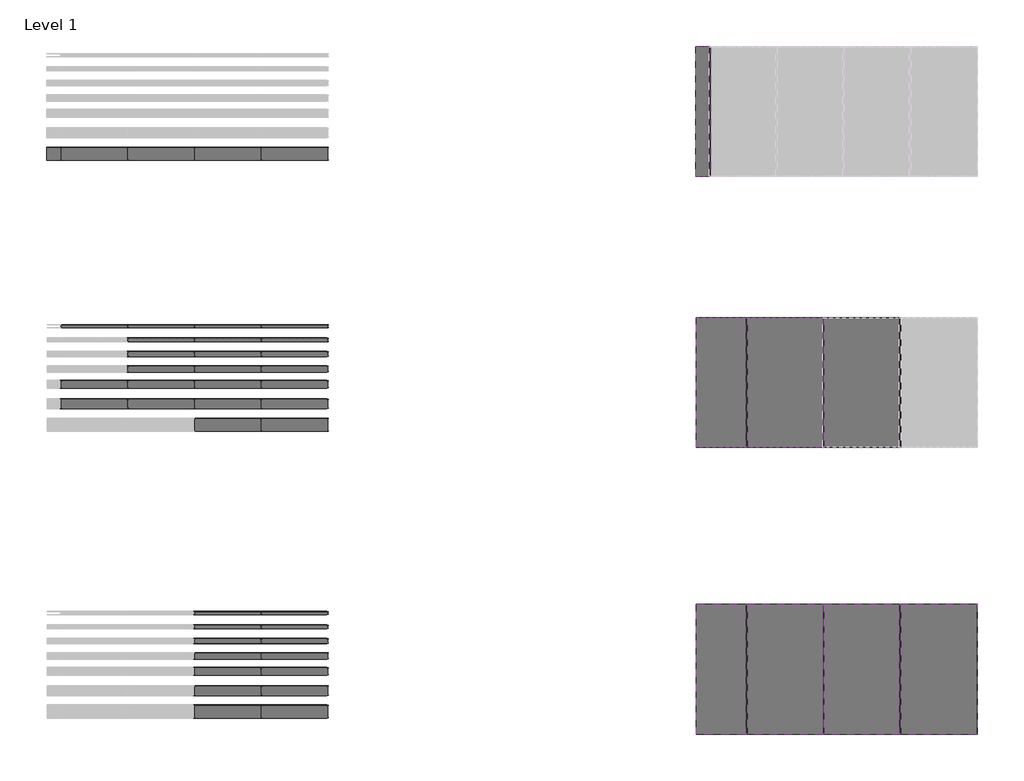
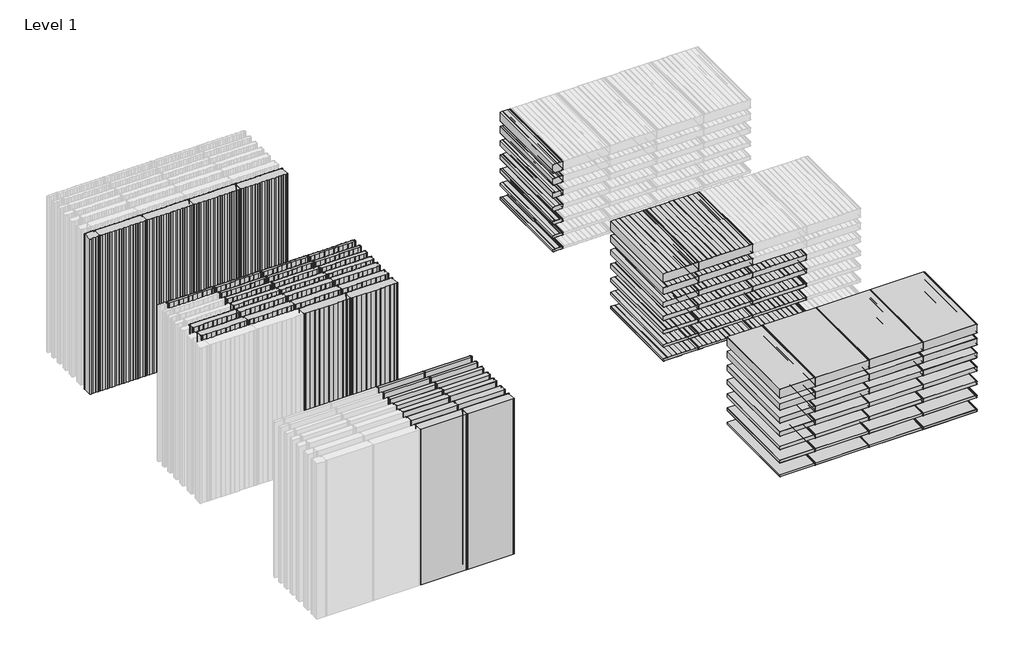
# One storey, part 3 of 4: 96 plates.
"""IFC4 building model written with IfcOpenShell, lengths in millimetres."""

from ifc_helpers import new_model, si_unit, origin, place, context, project, spatial, transform, mapped, element, save
from components import pm1_curtain_panel_flat_profile_4c73c2bf, pm1_curtain_panel_flat_profile_43c2f4df, pm1_curtain_panel_flat_profile_60ec96a5, pm1_curtain_panel_flat_profile_449bc577, pm1_curtain_panel_flat_profile_286b1131, pm1_curtain_panel_flat_profile_61f180d3, pm1_curtain_panel_flat_profile_b2dca893, pm1_curtain_panel_flat_profile_1d2014c8, pm1_curtain_panel_flat_profile_ca693aed, pm1_curtain_panel_flat_profile_87bdf2c1, pm1_curtain_panel_flat_profile_b736cf1f, pm1_curtain_panel_flat_profile_28417d67, pm1_curtain_panel_flat_profile_6e2cb82f, pm1_curtain_panel_flat_profile_e4c4468b, pm1_curtain_panel_micro_ribbed_profile_c0fbc9e0, pm1_curtain_panel_micro_ribbed_profile_24b0a13b, pm1_curtain_panel_micro_ribbed_profile_d84f3b6b, pm1_curtain_panel_micro_ribbed_profile_1f1996e2, pm1_curtain_panel_micro_ribbed_profile_37213962, pm1_curtain_panel_micro_ribbed_profile_cd397411, pm1_curtain_panel_micro_ribbed_profile_82cb0394, pm1_curtain_panel_micro_ribbed_profile_46b46948, pm1_curtain_panel_micro_ribbed_profile_8fb5820e, pm1_curtain_panel_micro_ribbed_profile_215b7ad8, pm1_curtain_panel_micro_ribbed_profile_cca0c929, pm1_curtain_panel_micro_ribbed_profile_ab274a87, pm1_curtain_panel_micro_ribbed_profile_490ffd24, pm1_curtain_panel_micro_ribbed_profile_86621088, pm1_curtain_panel_micro_ribbed_profile_fcd02327, pm1_curtain_panel_micro_ribbed_profile_9c3616a6, pm1_curtain_panel_micro_ribbed_profile_b6f5b8fb, pm1_curtain_panel_micro_ribbed_profile_d67f2b87, pm1_curtain_panel_micro_ribbed_profile_3ec6e447, pm1_curtain_panel_micro_ribbed_profile_b6d19df9, pm1_curtain_panel_micro_ribbed_profile_b77677c2, pmh_curtain_panel_standard_02edb116, pmh_curtain_panel_standard_71c8e410, pmh_curtain_panel_standard_208f2f02, pmh_curtain_panel_standard_dd2a4387, pmh_curtain_panel_standard_1fcd82a8, pmh_curtain_panel_standard_863052c6, pmh_curtain_panel_standard_c1a73980, pmh_curtain_panel_standard_c8ef7cc6, pmh_curtain_panel_standard_5d0e5f40, pmh_curtain_panel_flat_profile_2aa518ef, pmh_curtain_panel_flat_profile_bc538edd, pmh_curtain_panel_flat_profile_eaf717ca, pmh_curtain_panel_flat_profile_a8378464, pmh_curtain_panel_flat_profile_d1ff0061, pmh_curtain_panel_flat_profile_b9f61fe7, pmh_curtain_panel_flat_profile_7e397283, pmh_curtain_panel_micro_ribbed_profile_37a7e260, pmh_curtain_panel_micro_ribbed_profile_d39909f0, pmh_curtain_panel_micro_ribbed_profile_9a600a1f, pmh_curtain_panel_micro_ribbed_profile_23aabe01, pmh_curtain_panel_micro_ribbed_profile_1fa75648, pmh_curtain_panel_micro_ribbed_profile_c51ca6de, pmh_curtain_panel_micro_ribbed_profile_85a3d73c

model = new_model("IFC4")

# Units and contexts
model_context = context("Model", 3, world=origin())
ifc_project = project(units=[si_unit("LENGTHUNIT", "METRE", prefix="MILLI")], contexts=[model_context])

# Site, building, storey
site = spatial("IfcSite", under=ifc_project)
building = spatial("IfcBuilding", under=site)
storey = spatial("IfcBuildingStorey", under=building, Name="Level 1", Elevation=0.0)

# Plates
placement = place(None, origin())
pm1_curtain_panel_flat_profile_shape = pm1_curtain_panel_flat_profile_4c73c2bf(model_context)
element("IfcPlate", 1, ObjectType="PM1_Curtain-Panel_Flat-profile : ACH_PM1_Acoustic-Sectioning-Panel_50M", at=placement, inside=storey, context=model_context, shape_type="MappedRepresentation", body=[
    mapped(pm1_curtain_panel_flat_profile_shape, transform((11007.4664378, -9019.7144508, 0.0), x_axis=(-1.0, 0.0, 0.0), y_axis=(0.0, 0.0, 1.0), z_axis=(0.0, 1.0, 0.0))),
])
element("IfcPlate", 2, ObjectType="PM1_Curtain-Panel_Flat-profile : ACH_PM1_Acoustic-Sectioning-Panel_50M", at=placement, inside=storey, context=model_context, shape_type="MappedRepresentation", body=[
    mapped(pm1_curtain_panel_flat_profile_shape, transform((9857.4664378, -9019.7144508, 0.0), x_axis=(-1.0, 0.0, 0.0), y_axis=(0.0, 0.0, 1.0), z_axis=(0.0, 1.0, 0.0))),
])
element("IfcPlate", 3, ObjectType="PM1_Curtain-Panel_Flat-profile : ACH_PM1_Acoustic-Sectioning-Panel_50M", at=placement, inside=storey, context=model_context, shape_type="MappedRepresentation", body=[
    mapped(pm1_curtain_panel_flat_profile_shape, transform((8707.4664378, -9019.7144508, 0.0), x_axis=(-1.0, 0.0, 0.0), y_axis=(0.0, 0.0, 1.0), z_axis=(0.0, 1.0, 0.0))),
])
pm1_curtain_panel_flat_profile_2_shape = pm1_curtain_panel_flat_profile_43c2f4df(model_context)
element("IfcPlate", 4, ObjectType="PM1_Curtain-Panel_Flat-profile : ACH_PM1_Acoustic-Sectioning-Panel_50M", at=placement, inside=storey, context=model_context, shape_type="MappedRepresentation", body=[
    mapped(pm1_curtain_panel_flat_profile_2_shape, transform((7757.4544639, -9019.7144508, 0.0), x_axis=(-1.0, 0.0, 0.0), y_axis=(0.0, 0.0, 1.0), z_axis=(0.0, 1.0, 0.0))),
])
pm1_curtain_panel_flat_profile_3_shape = pm1_curtain_panel_flat_profile_60ec96a5(model_context)
element("IfcPlate", 5, ObjectType="PM1_Curtain-Panel_Flat-profile : ACH_PM1_Acoustic-Sectioning-Panel_60M", at=placement, inside=storey, context=model_context, shape_type="MappedRepresentation", body=[
    mapped(pm1_curtain_panel_flat_profile_3_shape, transform((11007.4664378, -9019.7144508, 320.0), x_axis=(-1.0, 0.0, 0.0), y_axis=(0.0, 0.0, 1.0), z_axis=(0.0, 1.0, 0.0))),
])
element("IfcPlate", 6, ObjectType="PM1_Curtain-Panel_Flat-profile : ACH_PM1_Acoustic-Sectioning-Panel_60M", at=placement, inside=storey, context=model_context, shape_type="MappedRepresentation", body=[
    mapped(pm1_curtain_panel_flat_profile_3_shape, transform((9857.4664378, -9019.7144508, 320.0), x_axis=(-1.0, 0.0, 0.0), y_axis=(0.0, 0.0, 1.0), z_axis=(0.0, 1.0, 0.0))),
])
element("IfcPlate", 7, ObjectType="PM1_Curtain-Panel_Flat-profile : ACH_PM1_Acoustic-Sectioning-Panel_60M", at=placement, inside=storey, context=model_context, shape_type="MappedRepresentation", body=[
    mapped(pm1_curtain_panel_flat_profile_3_shape, transform((8707.4664378, -9019.7144508, 320.0), x_axis=(-1.0, 0.0, 0.0), y_axis=(0.0, 0.0, 1.0), z_axis=(0.0, 1.0, 0.0))),
])
pm1_curtain_panel_flat_profile_4_shape = pm1_curtain_panel_flat_profile_449bc577(model_context)
element("IfcPlate", 8, ObjectType="PM1_Curtain-Panel_Flat-profile : ACH_PM1_Acoustic-Sectioning-Panel_60M", at=placement, inside=storey, context=model_context, shape_type="MappedRepresentation", body=[
    mapped(pm1_curtain_panel_flat_profile_4_shape, transform((7757.4544639, -9019.7144508, 320.0), x_axis=(-1.0, 0.0, 0.0), y_axis=(0.0, 0.0, 1.0), z_axis=(0.0, 1.0, 0.0))),
])
pm1_curtain_panel_flat_profile_5_shape = pm1_curtain_panel_flat_profile_286b1131(model_context)
element("IfcPlate", 9, ObjectType="PM1_Curtain-Panel_Flat-profile : ACH_PM1_Acoustic-Sectioning-Panel_80M", at=placement, inside=storey, context=model_context, shape_type="MappedRepresentation", body=[
    mapped(pm1_curtain_panel_flat_profile_5_shape, transform((11007.4664378, -9019.7144508, 640.0), x_axis=(-1.0, 0.0, 0.0), y_axis=(0.0, 0.0, 1.0), z_axis=(0.0, 1.0, 0.0))),
])
element("IfcPlate", 10, ObjectType="PM1_Curtain-Panel_Flat-profile : ACH_PM1_Acoustic-Sectioning-Panel_80M", at=placement, inside=storey, context=model_context, shape_type="MappedRepresentation", body=[
    mapped(pm1_curtain_panel_flat_profile_5_shape, transform((9857.4664378, -9019.7144508, 640.0), x_axis=(-1.0, 0.0, 0.0), y_axis=(0.0, 0.0, 1.0), z_axis=(0.0, 1.0, 0.0))),
])
element("IfcPlate", 11, ObjectType="PM1_Curtain-Panel_Flat-profile : ACH_PM1_Acoustic-Sectioning-Panel_80M", at=placement, inside=storey, context=model_context, shape_type="MappedRepresentation", body=[
    mapped(pm1_curtain_panel_flat_profile_5_shape, transform((8707.4664378, -9019.7144508, 640.0), x_axis=(-1.0, 0.0, 0.0), y_axis=(0.0, 0.0, 1.0), z_axis=(0.0, 1.0, 0.0))),
])
pm1_curtain_panel_flat_profile_6_shape = pm1_curtain_panel_flat_profile_61f180d3(model_context)
element("IfcPlate", 12, ObjectType="PM1_Curtain-Panel_Flat-profile : ACH_PM1_Acoustic-Sectioning-Panel_80M", at=placement, inside=storey, context=model_context, shape_type="MappedRepresentation", body=[
    mapped(pm1_curtain_panel_flat_profile_6_shape, transform((7757.4544639, -9019.7144508, 640.0), x_axis=(-1.0, 0.0, 0.0), y_axis=(0.0, 0.0, 1.0), z_axis=(0.0, 1.0, 0.0))),
])
pm1_curtain_panel_flat_profile_7_shape = pm1_curtain_panel_flat_profile_b2dca893(model_context)
element("IfcPlate", 13, ObjectType="PM1_Curtain-Panel_Flat-profile : ACH_PM1_Acoustic-Sectioning-Panel_100M", at=placement, inside=storey, context=model_context, shape_type="MappedRepresentation", body=[
    mapped(pm1_curtain_panel_flat_profile_7_shape, transform((11007.4664378, -9019.7144508, 960.0), x_axis=(-1.0, 0.0, 0.0), y_axis=(0.0, 0.0, 1.0), z_axis=(0.0, 1.0, 0.0))),
])
element("IfcPlate", 14, ObjectType="PM1_Curtain-Panel_Flat-profile : ACH_PM1_Acoustic-Sectioning-Panel_100M", at=placement, inside=storey, context=model_context, shape_type="MappedRepresentation", body=[
    mapped(pm1_curtain_panel_flat_profile_7_shape, transform((9857.4664378, -9019.7144508, 960.0), x_axis=(-1.0, 0.0, 0.0), y_axis=(0.0, 0.0, 1.0), z_axis=(0.0, 1.0, 0.0))),
])
element("IfcPlate", 15, ObjectType="PM1_Curtain-Panel_Flat-profile : ACH_PM1_Acoustic-Sectioning-Panel_100M", at=placement, inside=storey, context=model_context, shape_type="MappedRepresentation", body=[
    mapped(pm1_curtain_panel_flat_profile_7_shape, transform((8707.4664378, -9019.7144508, 960.0), x_axis=(-1.0, 0.0, 0.0), y_axis=(0.0, 0.0, 1.0), z_axis=(0.0, 1.0, 0.0))),
])
pm1_curtain_panel_flat_profile_8_shape = pm1_curtain_panel_flat_profile_1d2014c8(model_context)
element("IfcPlate", 16, ObjectType="PM1_Curtain-Panel_Flat-profile : ACH_PM1_Acoustic-Sectioning-Panel_100M", at=placement, inside=storey, context=model_context, shape_type="MappedRepresentation", body=[
    mapped(pm1_curtain_panel_flat_profile_8_shape, transform((7757.4544639, -9019.7144508, 960.0), x_axis=(-1.0, 0.0, 0.0), y_axis=(0.0, 0.0, 1.0), z_axis=(0.0, 1.0, 0.0))),
])
pm1_curtain_panel_flat_profile_9_shape = pm1_curtain_panel_flat_profile_ca693aed(model_context)
element("IfcPlate", 17, ObjectType="PM1_Curtain-Panel_Flat-profile : ACH_PM1_Acoustic-Sectioning-Panel_120M", at=placement, inside=storey, context=model_context, shape_type="MappedRepresentation", body=[
    mapped(pm1_curtain_panel_flat_profile_9_shape, transform((11007.4664378, -9019.7144508, 1280.0), x_axis=(-1.0, 0.0, 0.0), y_axis=(0.0, 0.0, 1.0), z_axis=(0.0, 1.0, 0.0))),
])
element("IfcPlate", 18, ObjectType="PM1_Curtain-Panel_Flat-profile : ACH_PM1_Acoustic-Sectioning-Panel_120M", at=placement, inside=storey, context=model_context, shape_type="MappedRepresentation", body=[
    mapped(pm1_curtain_panel_flat_profile_9_shape, transform((9857.4664378, -9019.7144508, 1280.0), x_axis=(-1.0, 0.0, 0.0), y_axis=(0.0, 0.0, 1.0), z_axis=(0.0, 1.0, 0.0))),
])
element("IfcPlate", 19, ObjectType="PM1_Curtain-Panel_Flat-profile : ACH_PM1_Acoustic-Sectioning-Panel_120M", at=placement, inside=storey, context=model_context, shape_type="MappedRepresentation", body=[
    mapped(pm1_curtain_panel_flat_profile_9_shape, transform((8707.4664378, -9019.7144508, 1280.0), x_axis=(-1.0, 0.0, 0.0), y_axis=(0.0, 0.0, 1.0), z_axis=(0.0, 1.0, 0.0))),
])
pm1_curtain_panel_flat_profile_10_shape = pm1_curtain_panel_flat_profile_87bdf2c1(model_context)
element("IfcPlate", 20, ObjectType="PM1_Curtain-Panel_Flat-profile : ACH_PM1_Acoustic-Sectioning-Panel_120M", at=placement, inside=storey, context=model_context, shape_type="MappedRepresentation", body=[
    mapped(pm1_curtain_panel_flat_profile_10_shape, transform((7757.4544639, -9019.7144508, 1280.0), x_axis=(-1.0, 0.0, 0.0), y_axis=(0.0, 0.0, 1.0), z_axis=(0.0, 1.0, 0.0))),
])
pm1_curtain_panel_flat_profile_11_shape = pm1_curtain_panel_flat_profile_b736cf1f(model_context)
element("IfcPlate", 21, ObjectType="PM1_Curtain-Panel_Flat-profile : ACH_PM1_Acoustic-Sectioning-Panel_150M", at=placement, inside=storey, context=model_context, shape_type="MappedRepresentation", body=[
    mapped(pm1_curtain_panel_flat_profile_11_shape, transform((11007.4664378, -9019.7144508, 1600.0), x_axis=(-1.0, 0.0, 0.0), y_axis=(0.0, 0.0, 1.0), z_axis=(0.0, 1.0, 0.0))),
])
element("IfcPlate", 22, ObjectType="PM1_Curtain-Panel_Flat-profile : ACH_PM1_Acoustic-Sectioning-Panel_150M", at=placement, inside=storey, context=model_context, shape_type="MappedRepresentation", body=[
    mapped(pm1_curtain_panel_flat_profile_11_shape, transform((9857.4664378, -9019.7144508, 1600.0), x_axis=(-1.0, 0.0, 0.0), y_axis=(0.0, 0.0, 1.0), z_axis=(0.0, 1.0, 0.0))),
])
element("IfcPlate", 23, ObjectType="PM1_Curtain-Panel_Flat-profile : ACH_PM1_Acoustic-Sectioning-Panel_150M", at=placement, inside=storey, context=model_context, shape_type="MappedRepresentation", body=[
    mapped(pm1_curtain_panel_flat_profile_11_shape, transform((8707.4664378, -9019.7144508, 1600.0), x_axis=(-1.0, 0.0, 0.0), y_axis=(0.0, 0.0, 1.0), z_axis=(0.0, 1.0, 0.0))),
])
pm1_curtain_panel_flat_profile_12_shape = pm1_curtain_panel_flat_profile_28417d67(model_context)
element("IfcPlate", 24, ObjectType="PM1_Curtain-Panel_Flat-profile : ACH_PM1_Acoustic-Sectioning-Panel_150M", at=placement, inside=storey, context=model_context, shape_type="MappedRepresentation", body=[
    mapped(pm1_curtain_panel_flat_profile_12_shape, transform((7757.4544639, -9019.7144508, 1600.0), x_axis=(-1.0, 0.0, 0.0), y_axis=(0.0, 0.0, 1.0), z_axis=(0.0, 1.0, 0.0))),
])
pm1_curtain_panel_flat_profile_13_shape = pm1_curtain_panel_flat_profile_6e2cb82f(model_context)
element("IfcPlate", 25, ObjectType="PM1_Curtain-Panel_Flat-profile : ACH_PM1_Acoustic-Sectioning-Panel_200M", at=placement, inside=storey, context=model_context, shape_type="MappedRepresentation", body=[
    mapped(pm1_curtain_panel_flat_profile_13_shape, transform((11007.4664378, -9019.7144508, 1920.0), x_axis=(-1.0, 0.0, 0.0), y_axis=(0.0, 0.0, 1.0), z_axis=(0.0, 1.0, 0.0))),
])
element("IfcPlate", 26, ObjectType="PM1_Curtain-Panel_Flat-profile : ACH_PM1_Acoustic-Sectioning-Panel_200M", at=placement, inside=storey, context=model_context, shape_type="MappedRepresentation", body=[
    mapped(pm1_curtain_panel_flat_profile_13_shape, transform((9857.4664378, -9019.7144508, 1920.0), x_axis=(-1.0, 0.0, 0.0), y_axis=(0.0, 0.0, 1.0), z_axis=(0.0, 1.0, 0.0))),
])
element("IfcPlate", 27, ObjectType="PM1_Curtain-Panel_Flat-profile : ACH_PM1_Acoustic-Sectioning-Panel_200M", at=placement, inside=storey, context=model_context, shape_type="MappedRepresentation", body=[
    mapped(pm1_curtain_panel_flat_profile_13_shape, transform((8707.4664378, -9019.7144508, 1920.0), x_axis=(-1.0, 0.0, 0.0), y_axis=(0.0, 0.0, 1.0), z_axis=(0.0, 1.0, 0.0))),
])
pm1_curtain_panel_flat_profile_14_shape = pm1_curtain_panel_flat_profile_e4c4468b(model_context)
element("IfcPlate", 28, ObjectType="PM1_Curtain-Panel_Flat-profile : ACH_PM1_Acoustic-Sectioning-Panel_200M", at=placement, inside=storey, context=model_context, shape_type="MappedRepresentation", body=[
    mapped(pm1_curtain_panel_flat_profile_14_shape, transform((7757.4544639, -9019.7144508, 1920.0), x_axis=(-1.0, 0.0, 0.0), y_axis=(0.0, 0.0, 1.0), z_axis=(0.0, 1.0, 0.0))),
])
pm1_curtain_panel_micro_ribbed_profile_shape = pm1_curtain_panel_micro_ribbed_profile_c0fbc9e0(model_context)
pm1_curtain_panel_micro_ribbed_profile_2_shape = pm1_curtain_panel_micro_ribbed_profile_24b0a13b(model_context)
element("IfcPlate", 29, ObjectType="PM1_Curtain-Panel_Micro-ribbed-profile : ACH_PM1_Acoustic-Sectioning-Panel_50M", at=placement, inside=storey, context=model_context, shape_type="MappedRepresentation", body=[
    mapped(pm1_curtain_panel_micro_ribbed_profile_shape, transform((9857.4664378, -4719.7144508, 0.0), x_axis=(-1.0, 0.0, 0.0), y_axis=(0.0, 0.0, 1.0), z_axis=(0.0, 1.0, 0.0))),
    mapped(pm1_curtain_panel_micro_ribbed_profile_2_shape, transform((9857.4664378, -4719.7144508, 0.0), x_axis=(-1.0, 0.0, 0.0), y_axis=(0.0, 0.0, 1.0), z_axis=(0.0, 1.0, 0.0))),
])
element("IfcPlate", 30, ObjectType="PM1_Curtain-Panel_Micro-ribbed-profile : ACH_PM1_Acoustic-Sectioning-Panel_50M", at=placement, inside=storey, context=model_context, shape_type="MappedRepresentation", body=[
    mapped(pm1_curtain_panel_micro_ribbed_profile_shape, transform((8707.4664378, -4719.7144508, 0.0), x_axis=(-1.0, 0.0, 0.0), y_axis=(0.0, 0.0, 1.0), z_axis=(0.0, 1.0, 0.0))),
    mapped(pm1_curtain_panel_micro_ribbed_profile_2_shape, transform((8707.4664378, -4719.7144508, 0.0), x_axis=(-1.0, 0.0, 0.0), y_axis=(0.0, 0.0, 1.0), z_axis=(0.0, 1.0, 0.0))),
])
pm1_curtain_panel_micro_ribbed_profile_3_shape = pm1_curtain_panel_micro_ribbed_profile_d84f3b6b(model_context)
element("IfcPlate", 31, ObjectType="PM1_Curtain-Panel_Micro-ribbed-profile : ACH_PM1_Acoustic-Sectioning-Panel_50M", at=placement, inside=storey, context=model_context, shape_type="MappedRepresentation", body=[
    mapped(pm1_curtain_panel_micro_ribbed_profile_3_shape, transform((7757.4544639, -4719.7144508, 0.0), x_axis=(-1.0, 0.0, 0.0), y_axis=(0.0, 0.0, 1.0), z_axis=(0.0, 1.0, 0.0))),
])
pm1_curtain_panel_micro_ribbed_profile_4_shape = pm1_curtain_panel_micro_ribbed_profile_1f1996e2(model_context)
pm1_curtain_panel_micro_ribbed_profile_5_shape = pm1_curtain_panel_micro_ribbed_profile_37213962(model_context)
element("IfcPlate", 32, ObjectType="PM1_Curtain-Panel_Micro-ribbed-profile : ACH_PM1_Acoustic-Sectioning-Panel_60M", at=placement, inside=storey, context=model_context, shape_type="MappedRepresentation", body=[
    mapped(pm1_curtain_panel_micro_ribbed_profile_4_shape, transform((9857.4664378, -4719.7144508, 320.0), x_axis=(-1.0, 0.0, 0.0), y_axis=(0.0, 0.0, 1.0), z_axis=(0.0, 1.0, 0.0))),
    mapped(pm1_curtain_panel_micro_ribbed_profile_5_shape, transform((9857.4664378, -4719.7144508, 320.0), x_axis=(-1.0, 0.0, 0.0), y_axis=(0.0, 0.0, 1.0), z_axis=(0.0, 1.0, 0.0))),
])
element("IfcPlate", 33, ObjectType="PM1_Curtain-Panel_Micro-ribbed-profile : ACH_PM1_Acoustic-Sectioning-Panel_60M", at=placement, inside=storey, context=model_context, shape_type="MappedRepresentation", body=[
    mapped(pm1_curtain_panel_micro_ribbed_profile_4_shape, transform((8707.4664378, -4719.7144508, 320.0), x_axis=(-1.0, 0.0, 0.0), y_axis=(0.0, 0.0, 1.0), z_axis=(0.0, 1.0, 0.0))),
    mapped(pm1_curtain_panel_micro_ribbed_profile_5_shape, transform((8707.4664378, -4719.7144508, 320.0), x_axis=(-1.0, 0.0, 0.0), y_axis=(0.0, 0.0, 1.0), z_axis=(0.0, 1.0, 0.0))),
])
pm1_curtain_panel_micro_ribbed_profile_6_shape = pm1_curtain_panel_micro_ribbed_profile_cd397411(model_context)
element("IfcPlate", 34, ObjectType="PM1_Curtain-Panel_Micro-ribbed-profile : ACH_PM1_Acoustic-Sectioning-Panel_60M", at=placement, inside=storey, context=model_context, shape_type="MappedRepresentation", body=[
    mapped(pm1_curtain_panel_micro_ribbed_profile_6_shape, transform((7757.4544639, -4719.7144508, 320.0), x_axis=(-1.0, 0.0, 0.0), y_axis=(0.0, 0.0, 1.0), z_axis=(0.0, 1.0, 0.0))),
])
pm1_curtain_panel_micro_ribbed_profile_7_shape = pm1_curtain_panel_micro_ribbed_profile_82cb0394(model_context)
pm1_curtain_panel_micro_ribbed_profile_8_shape = pm1_curtain_panel_micro_ribbed_profile_46b46948(model_context)
element("IfcPlate", 35, ObjectType="PM1_Curtain-Panel_Micro-ribbed-profile : ACH_PM1_Acoustic-Sectioning-Panel_80M", at=placement, inside=storey, context=model_context, shape_type="MappedRepresentation", body=[
    mapped(pm1_curtain_panel_micro_ribbed_profile_7_shape, transform((9857.4664378, -4719.7144508, 640.0), x_axis=(-1.0, 0.0, 0.0), y_axis=(0.0, 0.0, 1.0), z_axis=(0.0, 1.0, 0.0))),
    mapped(pm1_curtain_panel_micro_ribbed_profile_8_shape, transform((9857.4664378, -4719.7144508, 640.0), x_axis=(-1.0, 0.0, 0.0), y_axis=(0.0, 0.0, 1.0), z_axis=(0.0, 1.0, 0.0))),
])
element("IfcPlate", 36, ObjectType="PM1_Curtain-Panel_Micro-ribbed-profile : ACH_PM1_Acoustic-Sectioning-Panel_80M", at=placement, inside=storey, context=model_context, shape_type="MappedRepresentation", body=[
    mapped(pm1_curtain_panel_micro_ribbed_profile_7_shape, transform((8707.4664378, -4719.7144508, 640.0), x_axis=(-1.0, 0.0, 0.0), y_axis=(0.0, 0.0, 1.0), z_axis=(0.0, 1.0, 0.0))),
    mapped(pm1_curtain_panel_micro_ribbed_profile_8_shape, transform((8707.4664378, -4719.7144508, 640.0), x_axis=(-1.0, 0.0, 0.0), y_axis=(0.0, 0.0, 1.0), z_axis=(0.0, 1.0, 0.0))),
])
pm1_curtain_panel_micro_ribbed_profile_9_shape = pm1_curtain_panel_micro_ribbed_profile_8fb5820e(model_context)
element("IfcPlate", 37, ObjectType="PM1_Curtain-Panel_Micro-ribbed-profile : ACH_PM1_Acoustic-Sectioning-Panel_80M", at=placement, inside=storey, context=model_context, shape_type="MappedRepresentation", body=[
    mapped(pm1_curtain_panel_micro_ribbed_profile_9_shape, transform((7757.4544639, -4719.7144508, 640.0), x_axis=(-1.0, 0.0, 0.0), y_axis=(0.0, 0.0, 1.0), z_axis=(0.0, 1.0, 0.0))),
])
pm1_curtain_panel_micro_ribbed_profile_10_shape = pm1_curtain_panel_micro_ribbed_profile_215b7ad8(model_context)
pm1_curtain_panel_micro_ribbed_profile_11_shape = pm1_curtain_panel_micro_ribbed_profile_cca0c929(model_context)
element("IfcPlate", 38, ObjectType="PM1_Curtain-Panel_Micro-ribbed-profile : ACH_PM1_Acoustic-Sectioning-Panel_100M", at=placement, inside=storey, context=model_context, shape_type="MappedRepresentation", body=[
    mapped(pm1_curtain_panel_micro_ribbed_profile_10_shape, transform((9857.4664378, -4719.7144508, 960.0), x_axis=(-1.0, 0.0, 0.0), y_axis=(0.0, 0.0, 1.0), z_axis=(0.0, 1.0, 0.0))),
    mapped(pm1_curtain_panel_micro_ribbed_profile_11_shape, transform((9857.4664378, -4719.7144508, 960.0), x_axis=(-1.0, 0.0, 0.0), y_axis=(0.0, 0.0, 1.0), z_axis=(0.0, 1.0, 0.0))),
])
element("IfcPlate", 39, ObjectType="PM1_Curtain-Panel_Micro-ribbed-profile : ACH_PM1_Acoustic-Sectioning-Panel_100M", at=placement, inside=storey, context=model_context, shape_type="MappedRepresentation", body=[
    mapped(pm1_curtain_panel_micro_ribbed_profile_10_shape, transform((8707.4664378, -4719.7144508, 960.0), x_axis=(-1.0, 0.0, 0.0), y_axis=(0.0, 0.0, 1.0), z_axis=(0.0, 1.0, 0.0))),
    mapped(pm1_curtain_panel_micro_ribbed_profile_11_shape, transform((8707.4664378, -4719.7144508, 960.0), x_axis=(-1.0, 0.0, 0.0), y_axis=(0.0, 0.0, 1.0), z_axis=(0.0, 1.0, 0.0))),
])
pm1_curtain_panel_micro_ribbed_profile_12_shape = pm1_curtain_panel_micro_ribbed_profile_ab274a87(model_context)
element("IfcPlate", 40, ObjectType="PM1_Curtain-Panel_Micro-ribbed-profile : ACH_PM1_Acoustic-Sectioning-Panel_100M", at=placement, inside=storey, context=model_context, shape_type="MappedRepresentation", body=[
    mapped(pm1_curtain_panel_micro_ribbed_profile_12_shape, transform((7757.4544639, -4719.7144508, 960.0), x_axis=(-1.0, 0.0, 0.0), y_axis=(0.0, 0.0, 1.0), z_axis=(0.0, 1.0, 0.0))),
])
pm1_curtain_panel_micro_ribbed_profile_13_shape = pm1_curtain_panel_micro_ribbed_profile_490ffd24(model_context)
pm1_curtain_panel_micro_ribbed_profile_14_shape = pm1_curtain_panel_micro_ribbed_profile_86621088(model_context)
element("IfcPlate", 41, ObjectType="PM1_Curtain-Panel_Micro-ribbed-profile : ACH_PM1_Acoustic-Sectioning-Panel_120M", at=placement, inside=storey, context=model_context, shape_type="MappedRepresentation", body=[
    mapped(pm1_curtain_panel_micro_ribbed_profile_13_shape, transform((9857.4664378, -4719.7144508, 1280.0), x_axis=(-1.0, 0.0, 0.0), y_axis=(0.0, 0.0, 1.0), z_axis=(0.0, 1.0, 0.0))),
    mapped(pm1_curtain_panel_micro_ribbed_profile_14_shape, transform((9857.4664378, -4719.7144508, 1280.0), x_axis=(-1.0, 0.0, 0.0), y_axis=(0.0, 0.0, 1.0), z_axis=(0.0, 1.0, 0.0))),
])
element("IfcPlate", 42, ObjectType="PM1_Curtain-Panel_Micro-ribbed-profile : ACH_PM1_Acoustic-Sectioning-Panel_120M", at=placement, inside=storey, context=model_context, shape_type="MappedRepresentation", body=[
    mapped(pm1_curtain_panel_micro_ribbed_profile_13_shape, transform((8707.4664378, -4719.7144508, 1280.0), x_axis=(-1.0, 0.0, 0.0), y_axis=(0.0, 0.0, 1.0), z_axis=(0.0, 1.0, 0.0))),
    mapped(pm1_curtain_panel_micro_ribbed_profile_14_shape, transform((8707.4664378, -4719.7144508, 1280.0), x_axis=(-1.0, 0.0, 0.0), y_axis=(0.0, 0.0, 1.0), z_axis=(0.0, 1.0, 0.0))),
])
pm1_curtain_panel_micro_ribbed_profile_15_shape = pm1_curtain_panel_micro_ribbed_profile_fcd02327(model_context)
element("IfcPlate", 43, ObjectType="PM1_Curtain-Panel_Micro-ribbed-profile : ACH_PM1_Acoustic-Sectioning-Panel_120M", at=placement, inside=storey, context=model_context, shape_type="MappedRepresentation", body=[
    mapped(pm1_curtain_panel_micro_ribbed_profile_15_shape, transform((7757.4544639, -4719.7144508, 1280.0), x_axis=(-1.0, 0.0, 0.0), y_axis=(0.0, 0.0, 1.0), z_axis=(0.0, 1.0, 0.0))),
])
pm1_curtain_panel_micro_ribbed_profile_16_shape = pm1_curtain_panel_micro_ribbed_profile_9c3616a6(model_context)
pm1_curtain_panel_micro_ribbed_profile_17_shape = pm1_curtain_panel_micro_ribbed_profile_b6f5b8fb(model_context)
element("IfcPlate", 44, ObjectType="PM1_Curtain-Panel_Micro-ribbed-profile : ACH_PM1_Acoustic-Sectioning-Panel_150M", at=placement, inside=storey, context=model_context, shape_type="MappedRepresentation", body=[
    mapped(pm1_curtain_panel_micro_ribbed_profile_16_shape, transform((8707.4664378, -4719.7144508, 1600.0), x_axis=(-1.0, 0.0, 0.0), y_axis=(0.0, 0.0, 1.0), z_axis=(0.0, 1.0, 0.0))),
    mapped(pm1_curtain_panel_micro_ribbed_profile_17_shape, transform((8707.4664378, -4719.7144508, 1600.0), x_axis=(-1.0, 0.0, 0.0), y_axis=(0.0, 0.0, 1.0), z_axis=(0.0, 1.0, 0.0))),
])
pm1_curtain_panel_micro_ribbed_profile_18_shape = pm1_curtain_panel_micro_ribbed_profile_d67f2b87(model_context)
element("IfcPlate", 45, ObjectType="PM1_Curtain-Panel_Micro-ribbed-profile : ACH_PM1_Acoustic-Sectioning-Panel_150M", at=placement, inside=storey, context=model_context, shape_type="MappedRepresentation", body=[
    mapped(pm1_curtain_panel_micro_ribbed_profile_18_shape, transform((7757.4544639, -4719.7144508, 1600.0), x_axis=(-1.0, 0.0, 0.0), y_axis=(0.0, 0.0, 1.0), z_axis=(0.0, 1.0, 0.0))),
])
pm1_curtain_panel_micro_ribbed_profile_19_shape = pm1_curtain_panel_micro_ribbed_profile_3ec6e447(model_context)
pm1_curtain_panel_micro_ribbed_profile_20_shape = pm1_curtain_panel_micro_ribbed_profile_b6d19df9(model_context)
element("IfcPlate", 46, ObjectType="PM1_Curtain-Panel_Micro-ribbed-profile : ACH_PM1_Acoustic-Sectioning-Panel_200M", at=placement, inside=storey, context=model_context, shape_type="MappedRepresentation", body=[
    mapped(pm1_curtain_panel_micro_ribbed_profile_19_shape, transform((8707.4664378, -4719.7144508, 1920.0), x_axis=(-1.0, 0.0, 0.0), y_axis=(0.0, 0.0, 1.0), z_axis=(0.0, 1.0, 0.0))),
    mapped(pm1_curtain_panel_micro_ribbed_profile_20_shape, transform((8707.4664378, -4719.7144508, 1920.0), x_axis=(-1.0, 0.0, 0.0), y_axis=(0.0, 0.0, 1.0), z_axis=(0.0, 1.0, 0.0))),
])
pm1_curtain_panel_micro_ribbed_profile_21_shape = pm1_curtain_panel_micro_ribbed_profile_b77677c2(model_context)
element("IfcPlate", 47, ObjectType="PM1_Curtain-Panel_Micro-ribbed-profile : ACH_PM1_Acoustic-Sectioning-Panel_200M", at=placement, inside=storey, context=model_context, shape_type="MappedRepresentation", body=[
    mapped(pm1_curtain_panel_micro_ribbed_profile_21_shape, transform((7757.4544639, -4719.7144508, 1920.0), x_axis=(-1.0, 0.0, 0.0), y_axis=(0.0, 0.0, 1.0), z_axis=(0.0, 1.0, 0.0))),
])
pmh_curtain_panel_standard_shape = pmh_curtain_panel_standard_02edb116(model_context)
element("IfcPlate", 48, ObjectType="PMH_Curtain-Panel-Standard : ACH_PMH_Acoustic-Sectioning-Panel_200M", at=placement, inside=storey, context=model_context, shape_type="MappedRepresentation", body=[
    mapped(pmh_curtain_panel_standard_shape, transform((1353.9432954, -219.6173968, 0.0), x_axis=(-1.0, 0.0, 0.0), y_axis=(0.0, -1.0, 0.0), z_axis=(0.0, 0.0, 1.0))),
])
element("IfcPlate", 49, ObjectType="PMH_Curtain-Panel-Standard : ACH_PMH_Acoustic-Sectioning-Panel_200M", at=placement, inside=storey, context=model_context, shape_type="MappedRepresentation", body=[
    mapped(pmh_curtain_panel_standard_shape, transform((-646.0567046, -219.6173968, 0.0), x_axis=(-1.0, 0.0, 0.0), y_axis=(0.0, -1.0, 0.0), z_axis=(0.0, 0.0, 1.0))),
])
element("IfcPlate", 50, ObjectType="PMH_Curtain-Panel-Standard : ACH_PMH_Acoustic-Sectioning-Panel_200M", at=placement, inside=storey, context=model_context, shape_type="MappedRepresentation", body=[
    mapped(pmh_curtain_panel_standard_shape, transform((-1646.0567046, -219.6173968, 0.0), x_axis=(-1.0, 0.0, 0.0), y_axis=(0.0, -1.0, 0.0), z_axis=(0.0, 0.0, 1.0))),
])
element("IfcPlate", 51, ObjectType="PMH_Curtain-Panel-Standard : ACH_PMH_Acoustic-Sectioning-Panel_200M", at=placement, inside=storey, context=model_context, shape_type="MappedRepresentation", body=[
    mapped(pmh_curtain_panel_standard_shape, transform((353.9432954, -219.6173968, 0.0), x_axis=(-1.0, 0.0, 0.0), y_axis=(0.0, -1.0, 0.0), z_axis=(0.0, 0.0, 1.0))),
])
pmh_curtain_panel_standard_2_shape = pmh_curtain_panel_standard_71c8e410(model_context)
element("IfcPlate", 52, ObjectType="PMH_Curtain-Panel-Standard : ACH_PMH_Acoustic-Sectioning-Panel_200M", at=placement, inside=storey, context=model_context, shape_type="MappedRepresentation", body=[
    mapped(pmh_curtain_panel_standard_2_shape, transform((-2246.0567046, -219.6173968, 0.0), x_axis=(-1.0, 0.0, 0.0), y_axis=(0.0, -1.0, 0.0), z_axis=(0.0, 0.0, 1.0))),
])
pmh_curtain_panel_standard_3_shape = pmh_curtain_panel_standard_208f2f02(model_context)
element("IfcPlate", 53, ObjectType="PMH_Curtain-Panel-Standard : ACH_PMH_Acoustic-Sectioning-Panel_200M", at=placement, inside=storey, context=model_context, shape_type="MappedRepresentation", body=[
    mapped(pmh_curtain_panel_standard_3_shape, transform((7482.4544639, -659.2186597, 1920.0), x_axis=(-1.0, 0.0, 0.0), y_axis=(0.0, 0.0, 1.0), z_axis=(0.0, 1.0, 0.0))),
])
pmh_curtain_panel_standard_4_shape = pmh_curtain_panel_standard_dd2a4387(model_context)
element("IfcPlate", 54, ObjectType="PMH_Curtain-Panel-Standard : ACH_PMH_Acoustic-Sectioning-Panel_150M", at=placement, inside=storey, context=model_context, shape_type="MappedRepresentation", body=[
    mapped(pmh_curtain_panel_standard_4_shape, transform((7482.4544639, -659.2186597, 1600.0), x_axis=(-1.0, 0.0, 0.0), y_axis=(0.0, 0.0, 1.0), z_axis=(0.0, 1.0, 0.0))),
])
pmh_curtain_panel_standard_5_shape = pmh_curtain_panel_standard_1fcd82a8(model_context)
element("IfcPlate", 55, ObjectType="PMH_Curtain-Panel-Standard : ACH_PMH_Acoustic-Sectioning-Panel_120M", at=placement, inside=storey, context=model_context, shape_type="MappedRepresentation", body=[
    mapped(pmh_curtain_panel_standard_5_shape, transform((7482.4544639, -659.2186597, 1280.0), x_axis=(-1.0, 0.0, 0.0), y_axis=(0.0, 0.0, 1.0), z_axis=(0.0, 1.0, 0.0))),
])
pmh_curtain_panel_standard_6_shape = pmh_curtain_panel_standard_863052c6(model_context)
element("IfcPlate", 56, ObjectType="PMH_Curtain-Panel-Standard : ACH_PMH_Acoustic-Sectioning-Panel_100M", at=placement, inside=storey, context=model_context, shape_type="MappedRepresentation", body=[
    mapped(pmh_curtain_panel_standard_6_shape, transform((7482.4544639, -659.2186597, 960.0), x_axis=(-1.0, 0.0, 0.0), y_axis=(0.0, 0.0, 1.0), z_axis=(0.0, 1.0, 0.0))),
])
pmh_curtain_panel_standard_7_shape = pmh_curtain_panel_standard_c1a73980(model_context)
element("IfcPlate", 57, ObjectType="PMH_Curtain-Panel-Standard : ACH_PMH_Acoustic-Sectioning-Panel_80M", at=placement, inside=storey, context=model_context, shape_type="MappedRepresentation", body=[
    mapped(pmh_curtain_panel_standard_7_shape, transform((7482.4544639, -659.2186597, 640.0), x_axis=(-1.0, 0.0, 0.0), y_axis=(0.0, 0.0, 1.0), z_axis=(0.0, 1.0, 0.0))),
])
pmh_curtain_panel_standard_8_shape = pmh_curtain_panel_standard_c8ef7cc6(model_context)
element("IfcPlate", 58, ObjectType="PMH_Curtain-Panel-Standard : ACH_PMH_Acoustic-Sectioning-Panel_60M", at=placement, inside=storey, context=model_context, shape_type="MappedRepresentation", body=[
    mapped(pmh_curtain_panel_standard_8_shape, transform((7482.4544639, -659.2186597, 320.0), x_axis=(-1.0, 0.0, 0.0), y_axis=(0.0, 0.0, 1.0), z_axis=(0.0, 1.0, 0.0))),
])
pmh_curtain_panel_standard_9_shape = pmh_curtain_panel_standard_5d0e5f40(model_context)
element("IfcPlate", 59, ObjectType="PMH_Curtain-Panel-Standard : ACH_PMH_Acoustic-Sectioning-Panel_50M", at=placement, inside=storey, context=model_context, shape_type="MappedRepresentation", body=[
    mapped(pmh_curtain_panel_standard_9_shape, transform((7482.4544639, -659.2186597, 0.0), x_axis=(-1.0, 0.0, 0.0), y_axis=(0.0, 0.0, 1.0), z_axis=(0.0, 1.0, 0.0))),
])
pmh_curtain_panel_flat_profile_shape = pmh_curtain_panel_flat_profile_2aa518ef(model_context)
element("IfcPlate", 60, ObjectType="PMH_Curtain-Panel_Flat-profile : ACH_PMH_Acoustic-Sectioning-Panel_50M", at=placement, inside=storey, context=model_context, shape_type="MappedRepresentation", body=[
    mapped(pmh_curtain_panel_flat_profile_shape, transform((1353.9432954, -7179.3131879, 0.0), x_axis=(-1.0, 0.0, 0.0), y_axis=(0.0, -1.0, 0.0), z_axis=(0.0, 0.0, 1.0))),
])
element("IfcPlate", 61, ObjectType="PMH_Curtain-Panel_Flat-profile : ACH_PMH_Acoustic-Sectioning-Panel_50M", at=placement, inside=storey, context=model_context, shape_type="MappedRepresentation", body=[
    mapped(pmh_curtain_panel_flat_profile_shape, transform((353.9432954, -7179.3131879, 0.0), x_axis=(-1.0, 0.0, 0.0), y_axis=(0.0, -1.0, 0.0), z_axis=(0.0, 0.0, 1.0))),
])
pmh_curtain_panel_flat_profile_2_shape = pmh_curtain_panel_flat_profile_bc538edd(model_context)
element("IfcPlate", 62, ObjectType="PMH_Curtain-Panel_Flat-profile : ACH_PMH_Acoustic-Sectioning-Panel_60M", at=placement, inside=storey, context=model_context, shape_type="MappedRepresentation", body=[
    mapped(pmh_curtain_panel_flat_profile_2_shape, transform((1353.9432954, -7379.3131879, 0.0), x_axis=(-1.0, 0.0, 0.0), y_axis=(0.0, -1.0, 0.0), z_axis=(0.0, 0.0, 1.0))),
])
element("IfcPlate", 63, ObjectType="PMH_Curtain-Panel_Flat-profile : ACH_PMH_Acoustic-Sectioning-Panel_60M", at=placement, inside=storey, context=model_context, shape_type="MappedRepresentation", body=[
    mapped(pmh_curtain_panel_flat_profile_2_shape, transform((353.9432954, -7379.3131879, 0.0), x_axis=(-1.0, 0.0, 0.0), y_axis=(0.0, -1.0, 0.0), z_axis=(0.0, 0.0, 1.0))),
])
pmh_curtain_panel_flat_profile_3_shape = pmh_curtain_panel_flat_profile_eaf717ca(model_context)
element("IfcPlate", 64, ObjectType="PMH_Curtain-Panel_Flat-profile : ACH_PMH_Acoustic-Sectioning-Panel_80M", at=placement, inside=storey, context=model_context, shape_type="MappedRepresentation", body=[
    mapped(pmh_curtain_panel_flat_profile_3_shape, transform((1353.9432954, -7579.3131879, 0.0), x_axis=(-1.0, 0.0, 0.0), y_axis=(0.0, -1.0, 0.0), z_axis=(0.0, 0.0, 1.0))),
])
element("IfcPlate", 65, ObjectType="PMH_Curtain-Panel_Flat-profile : ACH_PMH_Acoustic-Sectioning-Panel_80M", at=placement, inside=storey, context=model_context, shape_type="MappedRepresentation", body=[
    mapped(pmh_curtain_panel_flat_profile_3_shape, transform((353.9432954, -7579.3131879, 0.0), x_axis=(-1.0, 0.0, 0.0), y_axis=(0.0, -1.0, 0.0), z_axis=(0.0, 0.0, 1.0))),
])
pmh_curtain_panel_flat_profile_4_shape = pmh_curtain_panel_flat_profile_a8378464(model_context)
element("IfcPlate", 66, ObjectType="PMH_Curtain-Panel_Flat-profile : ACH_PMH_Acoustic-Sectioning-Panel_100M", at=placement, inside=storey, context=model_context, shape_type="MappedRepresentation", body=[
    mapped(pmh_curtain_panel_flat_profile_4_shape, transform((1353.9432954, -7795.1131879, 0.0), x_axis=(-1.0, 0.0, 0.0), y_axis=(0.0, -1.0, 0.0), z_axis=(0.0, 0.0, 1.0))),
])
element("IfcPlate", 67, ObjectType="PMH_Curtain-Panel_Flat-profile : ACH_PMH_Acoustic-Sectioning-Panel_100M", at=placement, inside=storey, context=model_context, shape_type="MappedRepresentation", body=[
    mapped(pmh_curtain_panel_flat_profile_4_shape, transform((353.9432954, -7795.1131879, 0.0), x_axis=(-1.0, 0.0, 0.0), y_axis=(0.0, -1.0, 0.0), z_axis=(0.0, 0.0, 1.0))),
])
pmh_curtain_panel_flat_profile_5_shape = pmh_curtain_panel_flat_profile_d1ff0061(model_context)
element("IfcPlate", 68, ObjectType="PMH_Curtain-Panel_Flat-profile : ACH_PMH_Acoustic-Sectioning-Panel_120M", at=placement, inside=storey, context=model_context, shape_type="MappedRepresentation", body=[
    mapped(pmh_curtain_panel_flat_profile_5_shape, transform((1353.9432954, -8015.1131879, 0.0), x_axis=(-1.0, 0.0, 0.0), y_axis=(0.0, -1.0, 0.0), z_axis=(0.0, 0.0, 1.0))),
])
element("IfcPlate", 69, ObjectType="PMH_Curtain-Panel_Flat-profile : ACH_PMH_Acoustic-Sectioning-Panel_120M", at=placement, inside=storey, context=model_context, shape_type="MappedRepresentation", body=[
    mapped(pmh_curtain_panel_flat_profile_5_shape, transform((353.9432954, -8015.1131879, 0.0), x_axis=(-1.0, 0.0, 0.0), y_axis=(0.0, -1.0, 0.0), z_axis=(0.0, 0.0, 1.0))),
])
pmh_curtain_panel_flat_profile_6_shape = pmh_curtain_panel_flat_profile_b9f61fe7(model_context)
element("IfcPlate", 70, ObjectType="PMH_Curtain-Panel_Flat-profile : ACH_PMH_Acoustic-Sectioning-Panel_150M", at=placement, inside=storey, context=model_context, shape_type="MappedRepresentation", body=[
    mapped(pmh_curtain_panel_flat_profile_6_shape, transform((1353.9432954, -8290.1131879, 0.0), x_axis=(-1.0, 0.0, 0.0), y_axis=(0.0, -1.0, 0.0), z_axis=(0.0, 0.0, 1.0))),
])
element("IfcPlate", 71, ObjectType="PMH_Curtain-Panel_Flat-profile : ACH_PMH_Acoustic-Sectioning-Panel_150M", at=placement, inside=storey, context=model_context, shape_type="MappedRepresentation", body=[
    mapped(pmh_curtain_panel_flat_profile_6_shape, transform((353.9432954, -8290.1131879, 0.0), x_axis=(-1.0, 0.0, 0.0), y_axis=(0.0, -1.0, 0.0), z_axis=(0.0, 0.0, 1.0))),
])
pmh_curtain_panel_flat_profile_7_shape = pmh_curtain_panel_flat_profile_7e397283(model_context)
element("IfcPlate", 72, ObjectType="PMH_Curtain-Panel_Flat-profile : ACH_PMH_Acoustic-Sectioning-Panel_200M", at=placement, inside=storey, context=model_context, shape_type="MappedRepresentation", body=[
    mapped(pmh_curtain_panel_flat_profile_7_shape, transform((1353.9432954, -8580.1131879, 0.0), x_axis=(-1.0, 0.0, 0.0), y_axis=(0.0, -1.0, 0.0), z_axis=(0.0, 0.0, 1.0))),
])
element("IfcPlate", 73, ObjectType="PMH_Curtain-Panel_Flat-profile : ACH_PMH_Acoustic-Sectioning-Panel_200M", at=placement, inside=storey, context=model_context, shape_type="MappedRepresentation", body=[
    mapped(pmh_curtain_panel_flat_profile_7_shape, transform((353.9432954, -8580.1131879, 0.0), x_axis=(-1.0, 0.0, 0.0), y_axis=(0.0, -1.0, 0.0), z_axis=(0.0, 0.0, 1.0))),
])
pmh_curtain_panel_micro_ribbed_profile_shape = pmh_curtain_panel_micro_ribbed_profile_37a7e260(model_context)
element("IfcPlate", 74, ObjectType="PMH_Curtain-Panel_Micro-ribbed-profile : ACH_PMH_Acoustic-Sectioning-Panel_60M", at=placement, inside=storey, context=model_context, shape_type="MappedRepresentation", body=[
    mapped(pmh_curtain_panel_micro_ribbed_profile_shape, transform((1353.9432954, -3079.3131879, 0.0), x_axis=(-1.0, 0.0, 0.0), y_axis=(0.0, -1.0, 0.0), z_axis=(0.0, 0.0, 1.0))),
])
element("IfcPlate", 75, ObjectType="PMH_Curtain-Panel_Micro-ribbed-profile : ACH_PMH_Acoustic-Sectioning-Panel_60M", at=placement, inside=storey, context=model_context, shape_type="MappedRepresentation", body=[
    mapped(pmh_curtain_panel_micro_ribbed_profile_shape, transform((-646.0567046, -3079.3131879, 0.0), x_axis=(-1.0, 0.0, 0.0), y_axis=(0.0, -1.0, 0.0), z_axis=(0.0, 0.0, 1.0))),
])
element("IfcPlate", 76, ObjectType="PMH_Curtain-Panel_Micro-ribbed-profile : ACH_PMH_Acoustic-Sectioning-Panel_60M", at=placement, inside=storey, context=model_context, shape_type="MappedRepresentation", body=[
    mapped(pmh_curtain_panel_micro_ribbed_profile_shape, transform((353.9432954, -3079.3131879, 0.0), x_axis=(-1.0, 0.0, 0.0), y_axis=(0.0, -1.0, 0.0), z_axis=(0.0, 0.0, 1.0))),
])
pmh_curtain_panel_micro_ribbed_profile_2_shape = pmh_curtain_panel_micro_ribbed_profile_d39909f0(model_context)
element("IfcPlate", 77, ObjectType="PMH_Curtain-Panel_Micro-ribbed-profile : ACH_PMH_Acoustic-Sectioning-Panel_80M", at=placement, inside=storey, context=model_context, shape_type="MappedRepresentation", body=[
    mapped(pmh_curtain_panel_micro_ribbed_profile_2_shape, transform((1353.9432954, -3279.3131879, 0.0), x_axis=(-1.0, 0.0, 0.0), y_axis=(0.0, -1.0, 0.0), z_axis=(0.0, 0.0, 1.0))),
])
element("IfcPlate", 78, ObjectType="PMH_Curtain-Panel_Micro-ribbed-profile : ACH_PMH_Acoustic-Sectioning-Panel_80M", at=placement, inside=storey, context=model_context, shape_type="MappedRepresentation", body=[
    mapped(pmh_curtain_panel_micro_ribbed_profile_2_shape, transform((-646.0567046, -3279.3131879, 0.0), x_axis=(-1.0, 0.0, 0.0), y_axis=(0.0, -1.0, 0.0), z_axis=(0.0, 0.0, 1.0))),
])
element("IfcPlate", 79, ObjectType="PMH_Curtain-Panel_Micro-ribbed-profile : ACH_PMH_Acoustic-Sectioning-Panel_80M", at=placement, inside=storey, context=model_context, shape_type="MappedRepresentation", body=[
    mapped(pmh_curtain_panel_micro_ribbed_profile_2_shape, transform((353.9432954, -3279.3131879, 0.0), x_axis=(-1.0, 0.0, 0.0), y_axis=(0.0, -1.0, 0.0), z_axis=(0.0, 0.0, 1.0))),
])
pmh_curtain_panel_micro_ribbed_profile_3_shape = pmh_curtain_panel_micro_ribbed_profile_9a600a1f(model_context)
element("IfcPlate", 80, ObjectType="PMH_Curtain-Panel_Micro-ribbed-profile : ACH_PMH_Acoustic-Sectioning-Panel_50M", at=placement, inside=storey, context=model_context, shape_type="MappedRepresentation", body=[
    mapped(pmh_curtain_panel_micro_ribbed_profile_3_shape, transform((1353.9432954, -2879.3131879, 0.0), x_axis=(-1.0, 0.0, 0.0), y_axis=(0.0, -1.0, 0.0), z_axis=(0.0, 0.0, 1.0))),
])
element("IfcPlate", 81, ObjectType="PMH_Curtain-Panel_Micro-ribbed-profile : ACH_PMH_Acoustic-Sectioning-Panel_50M", at=placement, inside=storey, context=model_context, shape_type="MappedRepresentation", body=[
    mapped(pmh_curtain_panel_micro_ribbed_profile_3_shape, transform((-646.0567046, -2879.3131879, 0.0), x_axis=(-1.0, 0.0, 0.0), y_axis=(0.0, -1.0, 0.0), z_axis=(0.0, 0.0, 1.0))),
])
element("IfcPlate", 82, ObjectType="PMH_Curtain-Panel_Micro-ribbed-profile : ACH_PMH_Acoustic-Sectioning-Panel_50M", at=placement, inside=storey, context=model_context, shape_type="MappedRepresentation", body=[
    mapped(pmh_curtain_panel_micro_ribbed_profile_3_shape, transform((-1646.0567046, -2879.3131879, 0.0), x_axis=(-1.0, 0.0, 0.0), y_axis=(0.0, -1.0, 0.0), z_axis=(0.0, 0.0, 1.0))),
])
element("IfcPlate", 83, ObjectType="PMH_Curtain-Panel_Micro-ribbed-profile : ACH_PMH_Acoustic-Sectioning-Panel_50M", at=placement, inside=storey, context=model_context, shape_type="MappedRepresentation", body=[
    mapped(pmh_curtain_panel_micro_ribbed_profile_3_shape, transform((353.9432954, -2879.3131879, 0.0), x_axis=(-1.0, 0.0, 0.0), y_axis=(0.0, -1.0, 0.0), z_axis=(0.0, 0.0, 1.0))),
])
pmh_curtain_panel_micro_ribbed_profile_4_shape = pmh_curtain_panel_micro_ribbed_profile_23aabe01(model_context)
element("IfcPlate", 84, ObjectType="PMH_Curtain-Panel_Micro-ribbed-profile : ACH_PMH_Acoustic-Sectioning-Panel_100M", at=placement, inside=storey, context=model_context, shape_type="MappedRepresentation", body=[
    mapped(pmh_curtain_panel_micro_ribbed_profile_4_shape, transform((1353.9432954, -3495.1131879, 0.0), x_axis=(-1.0, 0.0, 0.0), y_axis=(0.0, -1.0, 0.0), z_axis=(0.0, 0.0, 1.0))),
])
element("IfcPlate", 85, ObjectType="PMH_Curtain-Panel_Micro-ribbed-profile : ACH_PMH_Acoustic-Sectioning-Panel_100M", at=placement, inside=storey, context=model_context, shape_type="MappedRepresentation", body=[
    mapped(pmh_curtain_panel_micro_ribbed_profile_4_shape, transform((-646.0567046, -3495.1131879, 0.0), x_axis=(-1.0, 0.0, 0.0), y_axis=(0.0, -1.0, 0.0), z_axis=(0.0, 0.0, 1.0))),
])
element("IfcPlate", 86, ObjectType="PMH_Curtain-Panel_Micro-ribbed-profile : ACH_PMH_Acoustic-Sectioning-Panel_100M", at=placement, inside=storey, context=model_context, shape_type="MappedRepresentation", body=[
    mapped(pmh_curtain_panel_micro_ribbed_profile_4_shape, transform((353.9432954, -3495.1131879, 0.0), x_axis=(-1.0, 0.0, 0.0), y_axis=(0.0, -1.0, 0.0), z_axis=(0.0, 0.0, 1.0))),
])
pmh_curtain_panel_micro_ribbed_profile_5_shape = pmh_curtain_panel_micro_ribbed_profile_1fa75648(model_context)
element("IfcPlate", 87, ObjectType="PMH_Curtain-Panel_Micro-ribbed-profile : ACH_PMH_Acoustic-Sectioning-Panel_120M", at=placement, inside=storey, context=model_context, shape_type="MappedRepresentation", body=[
    mapped(pmh_curtain_panel_micro_ribbed_profile_5_shape, transform((1353.9432954, -3715.1131879, 0.0), x_axis=(-1.0, 0.0, 0.0), y_axis=(0.0, -1.0, 0.0), z_axis=(0.0, 0.0, 1.0))),
])
element("IfcPlate", 88, ObjectType="PMH_Curtain-Panel_Micro-ribbed-profile : ACH_PMH_Acoustic-Sectioning-Panel_120M", at=placement, inside=storey, context=model_context, shape_type="MappedRepresentation", body=[
    mapped(pmh_curtain_panel_micro_ribbed_profile_5_shape, transform((-646.0567046, -3715.1131879, 0.0), x_axis=(-1.0, 0.0, 0.0), y_axis=(0.0, -1.0, 0.0), z_axis=(0.0, 0.0, 1.0))),
])
element("IfcPlate", 89, ObjectType="PMH_Curtain-Panel_Micro-ribbed-profile : ACH_PMH_Acoustic-Sectioning-Panel_120M", at=placement, inside=storey, context=model_context, shape_type="MappedRepresentation", body=[
    mapped(pmh_curtain_panel_micro_ribbed_profile_5_shape, transform((-1646.0567046, -3715.1131879, 0.0), x_axis=(-1.0, 0.0, 0.0), y_axis=(0.0, -1.0, 0.0), z_axis=(0.0, 0.0, 1.0))),
])
element("IfcPlate", 90, ObjectType="PMH_Curtain-Panel_Micro-ribbed-profile : ACH_PMH_Acoustic-Sectioning-Panel_120M", at=placement, inside=storey, context=model_context, shape_type="MappedRepresentation", body=[
    mapped(pmh_curtain_panel_micro_ribbed_profile_5_shape, transform((353.9432954, -3715.1131879, 0.0), x_axis=(-1.0, 0.0, 0.0), y_axis=(0.0, -1.0, 0.0), z_axis=(0.0, 0.0, 1.0))),
])
pmh_curtain_panel_micro_ribbed_profile_6_shape = pmh_curtain_panel_micro_ribbed_profile_c51ca6de(model_context)
element("IfcPlate", 91, ObjectType="PMH_Curtain-Panel_Micro-ribbed-profile : ACH_PMH_Acoustic-Sectioning-Panel_150M", at=placement, inside=storey, context=model_context, shape_type="MappedRepresentation", body=[
    mapped(pmh_curtain_panel_micro_ribbed_profile_6_shape, transform((1353.9432954, -3990.1131879, 0.0), x_axis=(-1.0, 0.0, 0.0), y_axis=(0.0, -1.0, 0.0), z_axis=(0.0, 0.0, 1.0))),
])
element("IfcPlate", 92, ObjectType="PMH_Curtain-Panel_Micro-ribbed-profile : ACH_PMH_Acoustic-Sectioning-Panel_150M", at=placement, inside=storey, context=model_context, shape_type="MappedRepresentation", body=[
    mapped(pmh_curtain_panel_micro_ribbed_profile_6_shape, transform((-646.0567046, -3990.1131879, 0.0), x_axis=(-1.0, 0.0, 0.0), y_axis=(0.0, -1.0, 0.0), z_axis=(0.0, 0.0, 1.0))),
])
element("IfcPlate", 93, ObjectType="PMH_Curtain-Panel_Micro-ribbed-profile : ACH_PMH_Acoustic-Sectioning-Panel_150M", at=placement, inside=storey, context=model_context, shape_type="MappedRepresentation", body=[
    mapped(pmh_curtain_panel_micro_ribbed_profile_6_shape, transform((-1646.0567046, -3990.1131879, 0.0), x_axis=(-1.0, 0.0, 0.0), y_axis=(0.0, -1.0, 0.0), z_axis=(0.0, 0.0, 1.0))),
])
element("IfcPlate", 94, ObjectType="PMH_Curtain-Panel_Micro-ribbed-profile : ACH_PMH_Acoustic-Sectioning-Panel_150M", at=placement, inside=storey, context=model_context, shape_type="MappedRepresentation", body=[
    mapped(pmh_curtain_panel_micro_ribbed_profile_6_shape, transform((353.9432954, -3990.1131879, 0.0), x_axis=(-1.0, 0.0, 0.0), y_axis=(0.0, -1.0, 0.0), z_axis=(0.0, 0.0, 1.0))),
])
pmh_curtain_panel_micro_ribbed_profile_7_shape = pmh_curtain_panel_micro_ribbed_profile_85a3d73c(model_context)
element("IfcPlate", 95, ObjectType="PMH_Curtain-Panel_Micro-ribbed-profile : ACH_PMH_Acoustic-Sectioning-Panel_200M", at=placement, inside=storey, context=model_context, shape_type="MappedRepresentation", body=[
    mapped(pmh_curtain_panel_micro_ribbed_profile_7_shape, transform((1353.9432954, -4280.1131879, 0.0), x_axis=(-1.0, 0.0, 0.0), y_axis=(0.0, -1.0, 0.0), z_axis=(0.0, 0.0, 1.0))),
])
element("IfcPlate", 96, ObjectType="PMH_Curtain-Panel_Micro-ribbed-profile : ACH_PMH_Acoustic-Sectioning-Panel_200M", at=placement, inside=storey, context=model_context, shape_type="MappedRepresentation", body=[
    mapped(pmh_curtain_panel_micro_ribbed_profile_7_shape, transform((353.9432954, -4280.1131879, 0.0), x_axis=(-1.0, 0.0, 0.0), y_axis=(0.0, -1.0, 0.0), z_axis=(0.0, 0.0, 1.0))),
])

save(model, "model.ifc")
